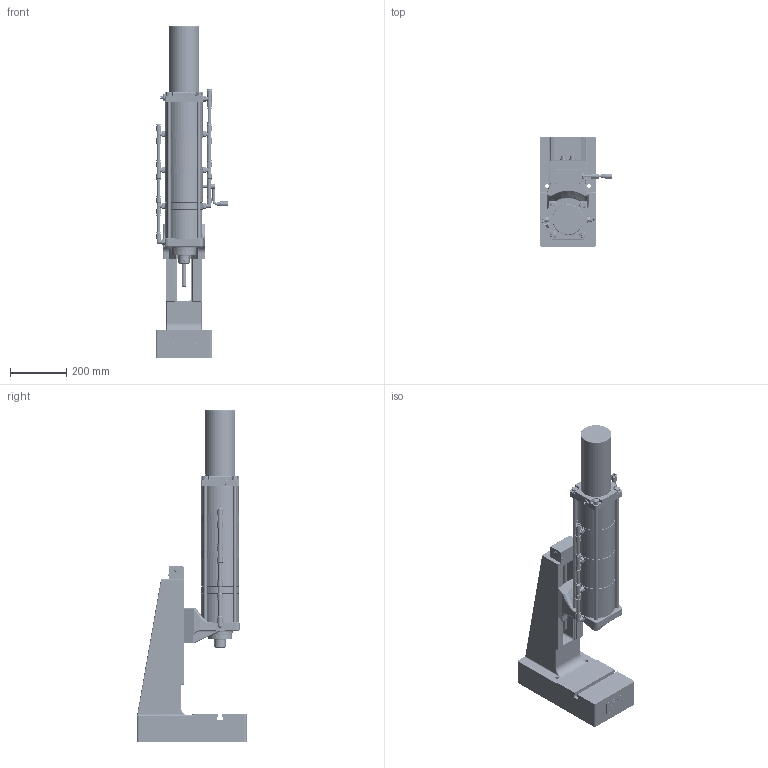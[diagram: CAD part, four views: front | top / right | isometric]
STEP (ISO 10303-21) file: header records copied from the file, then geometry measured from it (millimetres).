
FILE_DESCRIPTION(/* description */ ('Bausatz Ständer T4N HV-OST'),/* implementation_level */ '2;1');
FILE_NAME(/* name */ 'B:\02_CAD_oeffentlich\CAD_3D_oeffentlich_step\Druckluftpresse\DRP_2800_060_130.stp',/* time_stamp */ '2017-08-28T07:10:56+02:00',/* author */ ('Finsterle'),/* organization */ (''),/* preprocessor_version */ 'ST-DEVELOPER v16.1',/* originating_system */ 'Autodesk Inventor 2016',/* authorisation */ '');
FILE_SCHEMA (('AUTOMOTIVE_DESIGN { 1 0 10303 214 3 1 1 }'));
Products named in the file (5): ENG-000753-1_V; ENG-001159_V; HBF-000760; ENG-000755; HBF-001076_V
Assembly tree (5 placements, depth 2):
  HBF-001076_V
    ENG-000753-1_V
    ENG-001159_V
    HBF-000760
    ENG-000755  x2
Bounding box: 259.79 x 393.8 x 1184.85 mm (x, y, z)
Volume: 14118646.3 mm3; surface area: 2014337.5 mm2
Topology: 6 solids, 32 shells, 7973 faces, 21257 edges, 13856 vertices
Faces by surface type: plane 4722, bspline 2118, cylinder 624, cone 265, torus 169, sphere 75
Full cylindrical faces by diameter (mm): 1 x1, 2 x1, 2.4 x3, 2.459 x2, 3 x6, 3.242 x7, 3.5 x2, 3.65 x4, 4 x5, 4.134 x1, 4.2 x2, 4.5 x4, 4.917 x6, 5 x3, 6.2 x4, 6.5 x2, 6.647 x1, 8 x5, 8.4 x1, 8.5 x2, 9 x6, 10 x3, 10.02 x1, 10.5 x4, 11.5 x10, 11.8 x2, 12 x30, 12.5 x4, 13 x24, 13.5 x4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
Entity records: 267159 total; most frequent: CARTESIAN_POINT 78457, ORIENTED_EDGE 40736, DIRECTION 29325, EDGE_CURVE 20339, LINE 13997, VECTOR 13997, VERTEX_POINT 13675, EDGE_LOOP 9318
